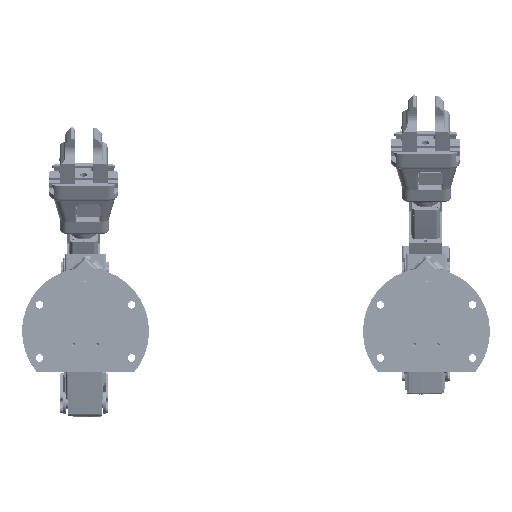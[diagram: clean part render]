
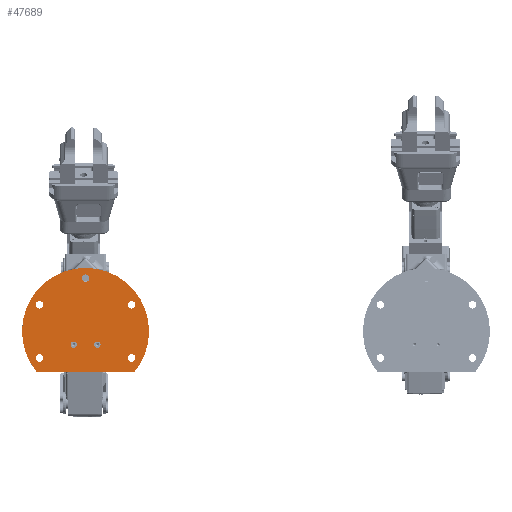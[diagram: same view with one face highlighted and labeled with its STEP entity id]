
A CAD part, left-side view. The second image highlights one B-rep face of the part: STEP entity #47689.
In plain terms, the highlighted planar face has unit normal (-1, 0, 0) as drawn and (0, 1, 0) by its records, which use the part's own axes.
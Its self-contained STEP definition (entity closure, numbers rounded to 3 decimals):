
#2354=FACE_BOUND('',#7751,.T.);
#2355=FACE_BOUND('',#7752,.T.);
#2356=FACE_BOUND('',#7753,.T.);
#2357=FACE_BOUND('',#7754,.T.);
#2358=FACE_BOUND('',#7755,.T.);
#2359=FACE_BOUND('',#7756,.T.);
#2360=FACE_BOUND('',#7757,.T.);
#2833=PLANE('',#51348);
#5131=FACE_OUTER_BOUND('',#7750,.T.);
#7750=EDGE_LOOP('',(#33488,#33489));
#7751=EDGE_LOOP('',(#33490));
#7752=EDGE_LOOP('',(#33491));
#7753=EDGE_LOOP('',(#33492));
#7754=EDGE_LOOP('',(#33493));
#7755=EDGE_LOOP('',(#33494));
#7756=EDGE_LOOP('',(#33495));
#7757=EDGE_LOOP('',(#33496));
#10756=LINE('',#69949,#14975);
#14975=VECTOR('',#56386,10.);
#19112=CIRCLE('',#51244,3.3);
#19113=CIRCLE('',#51246,3.3);
#19114=CIRCLE('',#51248,3.3);
#19115=CIRCLE('',#51250,3.3);
#19116=CIRCLE('',#51252,3.3);
#19120=CIRCLE('',#51259,2.75);
#19124=CIRCLE('',#51267,2.75);
#19150=CIRCLE('',#51347,55.);
#20982=VERTEX_POINT('',#69701);
#20983=VERTEX_POINT('',#69705);
#20984=VERTEX_POINT('',#69709);
#20985=VERTEX_POINT('',#69713);
#20986=VERTEX_POINT('',#69717);
#20991=VERTEX_POINT('',#69731);
#20996=VERTEX_POINT('',#69747);
#21049=VERTEX_POINT('',#69946);
#21050=VERTEX_POINT('',#69948);
#25894=EDGE_CURVE('',#20982,#20982,#19112,.T.);
#25896=EDGE_CURVE('',#20983,#20983,#19113,.T.);
#25898=EDGE_CURVE('',#20984,#20984,#19114,.T.);
#25900=EDGE_CURVE('',#20985,#20985,#19115,.T.);
#25902=EDGE_CURVE('',#20986,#20986,#19116,.T.);
#25908=EDGE_CURVE('',#20991,#20991,#19120,.T.);
#25915=EDGE_CURVE('',#20996,#20996,#19124,.T.);
#26001=EDGE_CURVE('',#21050,#21049,#10756,.T.);
#26012=EDGE_CURVE('',#21049,#21050,#19150,.T.);
#33488=ORIENTED_EDGE('',*,*,#26001,.T.);
#33489=ORIENTED_EDGE('',*,*,#26012,.T.);
#33490=ORIENTED_EDGE('',*,*,#25894,.T.);
#33491=ORIENTED_EDGE('',*,*,#25896,.T.);
#33492=ORIENTED_EDGE('',*,*,#25898,.T.);
#33493=ORIENTED_EDGE('',*,*,#25900,.T.);
#33494=ORIENTED_EDGE('',*,*,#25902,.T.);
#33495=ORIENTED_EDGE('',*,*,#25908,.T.);
#33496=ORIENTED_EDGE('',*,*,#25915,.T.);
#47689=ADVANCED_FACE('',(#5131,#2354,#2355,#2356,#2357,#2358,#2359,#2360),
#2833,.T.);
#51244=AXIS2_PLACEMENT_3D('',#69702,#56142,#56143);
#51246=AXIS2_PLACEMENT_3D('',#69706,#56147,#56148);
#51248=AXIS2_PLACEMENT_3D('',#69710,#56152,#56153);
#51250=AXIS2_PLACEMENT_3D('',#69714,#56157,#56158);
#51252=AXIS2_PLACEMENT_3D('',#69718,#56162,#56163);
#51259=AXIS2_PLACEMENT_3D('',#69732,#56178,#56179);
#51267=AXIS2_PLACEMENT_3D('',#69748,#56197,#56198);
#51347=AXIS2_PLACEMENT_3D('',#69970,#56408,#56409);
#51348=AXIS2_PLACEMENT_3D('',#69971,#56410,#56411);
#56142=DIRECTION('center_axis',(0.,-1.,0.));
#56143=DIRECTION('ref_axis',(0.5,0.,0.866));
#56147=DIRECTION('center_axis',(0.,-1.,0.));
#56148=DIRECTION('ref_axis',(-0.5,0.,0.866));
#56152=DIRECTION('center_axis',(0.,-1.,0.));
#56153=DIRECTION('ref_axis',(-0.5,0.,-0.866));
#56157=DIRECTION('center_axis',(0.,-1.,0.));
#56158=DIRECTION('ref_axis',(0.5,0.,-0.866));
#56162=DIRECTION('center_axis',(0.,-1.,0.));
#56163=DIRECTION('ref_axis',(1.,0.,0.));
#56178=DIRECTION('center_axis',(0.,-1.,0.));
#56179=DIRECTION('ref_axis',(1.,0.,0.));
#56197=DIRECTION('center_axis',(0.,-1.,0.));
#56198=DIRECTION('ref_axis',(1.,0.,0.));
#56386=DIRECTION('',(1.,0.,0.));
#56408=DIRECTION('center_axis',(0.,1.,0.));
#56409=DIRECTION('ref_axis',(1.,0.,0.));
#56410=DIRECTION('center_axis',(0.,1.,0.));
#56411=DIRECTION('ref_axis',(0.,0.,1.));
#69701=CARTESIAN_POINT('',(43.993,73.,-50.858));
#69702=CARTESIAN_POINT('Origin',(45.643,73.,-48.));
#69705=CARTESIAN_POINT('',(47.293,73.,-4.858));
#69706=CARTESIAN_POINT('Origin',(45.643,73.,-2.));
#69709=CARTESIAN_POINT('',(-32.382,73.,0.858));
#69710=CARTESIAN_POINT('Origin',(-34.032,73.,-2.));
#69713=CARTESIAN_POINT('',(-35.682,73.,-45.142));
#69714=CARTESIAN_POINT('Origin',(-34.032,73.,-48.));
#69717=CARTESIAN_POINT('',(2.506,73.,-71.));
#69718=CARTESIAN_POINT('Origin',(5.806,73.,-71.));
#69731=CARTESIAN_POINT('',(13.306,73.,-13.4));
#69732=CARTESIAN_POINT('Origin',(16.056,73.,-13.4));
#69747=CARTESIAN_POINT('',(-7.194,73.,-13.4));
#69748=CARTESIAN_POINT('Origin',(-4.444,73.,-13.4));
#69946=CARTESIAN_POINT('',(48.232,73.,10.));
#69948=CARTESIAN_POINT('',(-36.621,73.,10.));
#69949=CARTESIAN_POINT('',(-36.621,73.,10.));
#69970=CARTESIAN_POINT('Origin',(5.806,73.,-25.));
#69971=CARTESIAN_POINT('Origin',(5.806,73.,-35.));
